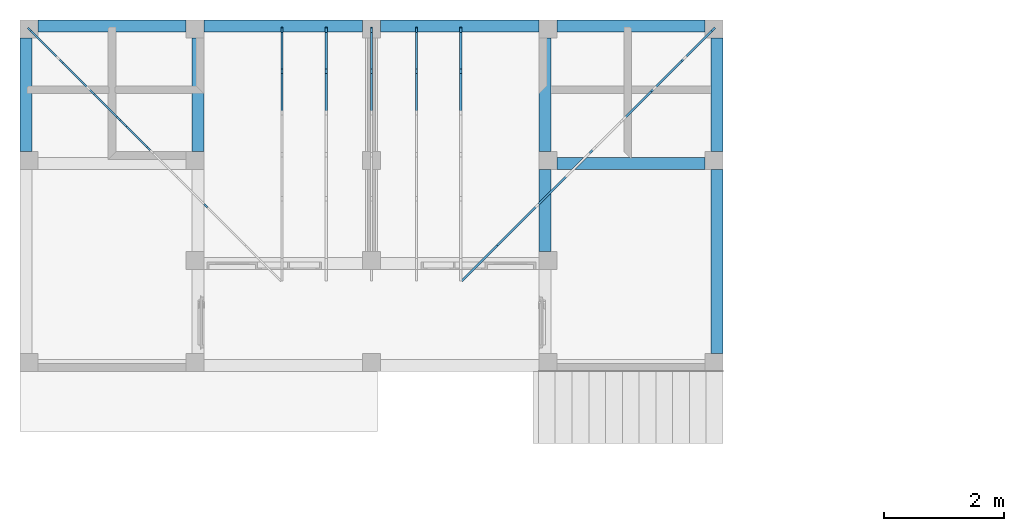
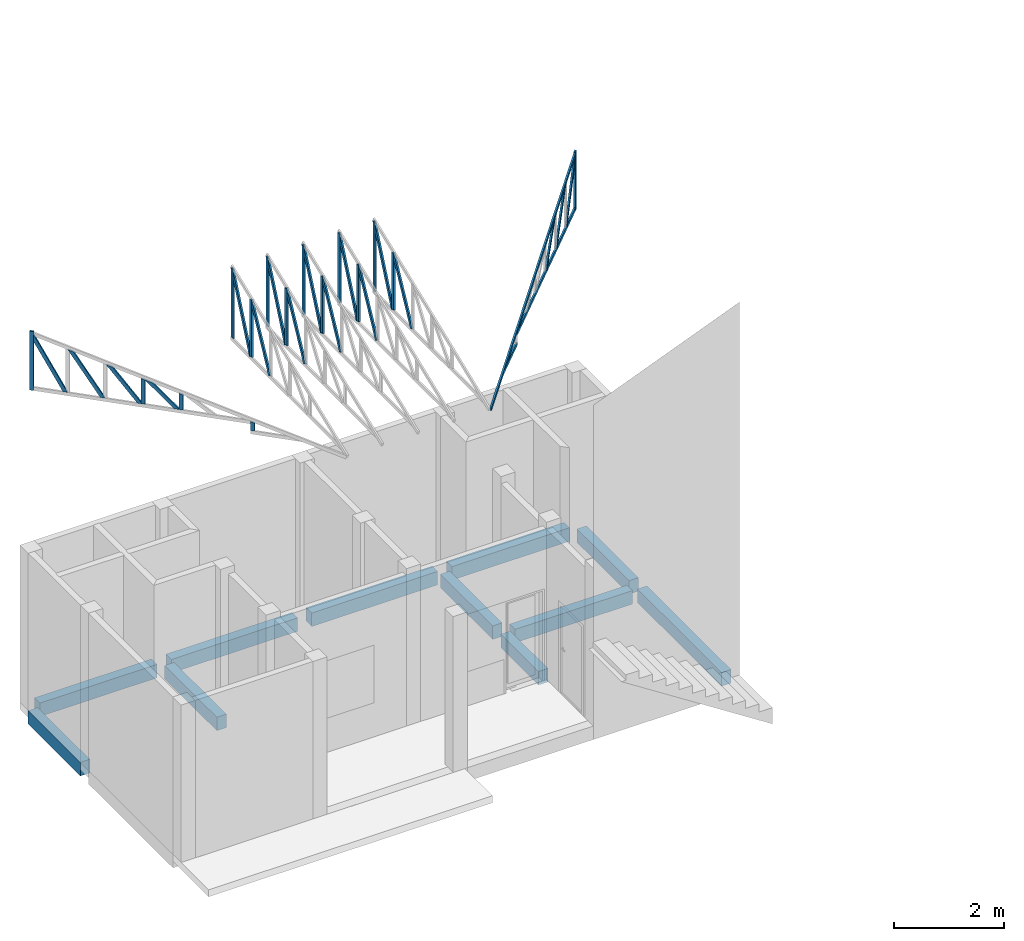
# One storey, part 2 of 10: 35 members, 11 beams, 7 elements without a shape of their own.
"""IFC4X3_ADD2 building model written with IfcOpenShell, lengths in millimetres."""

from ifc_helpers import new_model, entity, si_unit, converted_unit, frame, origin_with_axes, origin_2d_with_axis, place, context, subcontext, project, spatial, rectangle, extrude, clip, halfspace, material, material_profile, profile_set, profile_usage, type_object, element, aggregate, save


model = new_model("IFC4X3_ADD2")

# Units and contexts
model_context = context("Model", 3, precision=1e-05, world=origin_with_axes())
plan_context = context("Plan", 2, precision=1e-05, world=origin_2d_with_axis())
body_context = subcontext(model_context, "Body", "Model", "MODEL_VIEW")
ifc_project = project(units=[si_unit("VOLUMEUNIT", "CUBIC_METRE"), si_unit("LENGTHUNIT", "METRE", prefix="MILLI"), converted_unit("PLANEANGLEUNIT", "degree", entity("IfcReal", 0.0174532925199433), si_unit("PLANEANGLEUNIT", "RADIAN"), dimensions=[0, 0, 0, 0, 0, 0, 0]), si_unit("AREAUNIT", "SQUARE_METRE")], contexts=[model_context, plan_context])

# Site, building, storey
site_placement = place(None, origin_with_axes())
site = spatial("IfcSite", under=ifc_project, at=site_placement, Name="My Site")
building_placement = place(site_placement, origin_with_axes())
building = spatial("IfcBuilding", under=site, at=building_placement, Name="My Building")
storey_placement = place(building_placement, origin_with_axes())
storey = spatial("IfcBuildingStorey", under=building, at=storey_placement, Name="Lantai 1")

# Beams
ifc_material_1 = material(Name="plester")
ifc_material_profile_1 = material_profile(ifc_material_1, rectangle(XDim=200.0, YDim=300.0))
ifc_profile_set_1 = profile_set([ifc_material_profile_1])
ifc_profile_usage_1 = profile_usage(ifc_profile_set_1, cardinal=9)
beam_type = type_object("IfcBeamType", Name="TB1", PredefinedType="BEAM", material=ifc_profile_set_1)
beam_1_placement = place(storey_placement, frame((11590.0001525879, 150.000005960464, 0.0), z_axis=(-8.74227742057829e-08, 0.999999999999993, 7.5497902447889e-08), x_axis=(-0.999999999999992, -8.74227789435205e-08, 8.74228073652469e-08)))
element("IfcBeam", 1, at=beam_1_placement, inside=storey, type_object=beam_type, material=ifc_profile_usage_1, Name="Beam", context=body_context, shape_type="SweptSolid", body=[
    extrude(rectangle(XDim=200.0, YDim=300.0), frame((100.0, -150.0, 0.0), z_axis=(0.0, 0.0, 1.0), x_axis=(1.0, 0.0, 0.0)), (0.0, 0.0, 1.0), 3069.99969830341),
])
ifc_profile_usage_2 = profile_usage(ifc_profile_set_1, cardinal=9)
beam_2_placement = place(storey_placement, frame((11590.0001525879, 3519.99998092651, 0.0), z_axis=(-8.74227742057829e-08, 0.999999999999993, 7.5497902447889e-08), x_axis=(-0.999999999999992, -8.74227789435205e-08, 8.74228073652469e-08)))
element("IfcBeam", 2, at=beam_2_placement, inside=storey, type_object=beam_type, material=ifc_profile_usage_2, Name="Beam", context=body_context, shape_type="SweptSolid", body=[
    extrude(rectangle(XDim=200.0, YDim=300.0), frame((100.0, -150.0, 0.0), z_axis=(0.0, 0.0, 1.0), x_axis=(1.0, 0.0, 0.0)), (0.0, 0.0, 1.0), 1899.99959594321),
])
ifc_profile_usage_3 = profile_usage(ifc_profile_set_1, cardinal=9)
beam_3_placement = place(storey_placement, frame((5570.00017166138, 5719.99979019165, 0.0), z_axis=(-0.999999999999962, -1.94707164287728e-07, 1.94707178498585e-07), x_axis=(1.94707178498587e-07, -0.999999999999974, 1.19209289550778e-07)))
element("IfcBeam", 3, at=beam_3_placement, inside=storey, type_object=beam_type, material=ifc_profile_usage_3, Name="Beam", context=body_context, shape_type="SweptSolid", body=[
    extrude(rectangle(XDim=200.0, YDim=300.0), frame((100.0, -150.0, 0.0), z_axis=(0.0, 0.0, 1.0), x_axis=(1.0, 0.0, 0.0)), (0.0, 0.0, 1.0), 2650.00009716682),
])
ifc_profile_usage_4 = profile_usage(ifc_profile_set_1, cardinal=9)
beam_4_placement = place(storey_placement, frame((2619.99988555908, 5719.99979019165, 0.0), z_axis=(-0.999999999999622, -6.71544177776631e-07, 5.52335037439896e-07), x_axis=(6.7154434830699e-07, -0.99999999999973, 2.98023191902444e-07)))
element("IfcBeam", 4, at=beam_4_placement, inside=storey, type_object=beam_type, material=ifc_profile_usage_4, Name="Beam", context=body_context, shape_type="SweptSolid", body=[
    extrude(rectangle(XDim=200.0, YDim=300.0), frame((100.0, -150.0, 0.0), z_axis=(0.0, 0.0, 1.0), x_axis=(1.0, 0.0, 0.0)), (0.0, 0.0, 1.0), 2469.99974548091),
])
ifc_profile_usage_5 = profile_usage(ifc_profile_set_1, cardinal=9)
beam_5_placement = place(storey_placement, frame((-150.000005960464, 5419.99959945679, 0.0), z_axis=(0.0, -0.999999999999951, 3.13916482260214e-07), x_axis=(1.0, 0.0, 0.0)))
element("IfcBeam", 5, at=beam_5_placement, inside=storey, type_object=beam_type, material=ifc_profile_usage_5, Name="Beam", context=body_context, shape_type="SweptSolid", body=[
    extrude(rectangle(XDim=200.0, YDim=300.0), frame((100.0, -150.0, 0.0), z_axis=(0.0, 0.0, 1.0), x_axis=(1.0, 0.0, 0.0)), (0.0, 0.0, 1.0), 1899.99959594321),
])
ifc_profile_usage_6 = profile_usage(ifc_profile_set_1, cardinal=9)
beam_6_placement = place(storey_placement, frame((8520.00045776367, 3219.99979019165, 0.0), z_axis=(0.0, -0.999999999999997, 7.54978986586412e-08), x_axis=(1.0, 0.0, 0.0)))
element("IfcBeam", 6, at=beam_6_placement, inside=storey, type_object=beam_type, material=ifc_profile_usage_6, Name="Beam", context=body_context, shape_type="SweptSolid", body=[
    extrude(rectangle(XDim=200.0, YDim=300.0), frame((100.0, -150.0, 0.0), z_axis=(0.0, 0.0, 1.0), x_axis=(1.0, 0.0, 0.0)), (0.0, 0.0, 1.0), 1369.9999845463),
])
ifc_profile_usage_7 = profile_usage(ifc_profile_set_1, cardinal=9)
beam_7_placement = place(storey_placement, frame((2920.00007629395, 3519.99998092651, 0.0), z_axis=(-8.74227742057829e-08, 0.999999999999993, 7.5497902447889e-08), x_axis=(-0.999999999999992, -8.74227789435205e-08, 8.74228073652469e-08)))
element("IfcBeam", 7, at=beam_7_placement, inside=storey, type_object=beam_type, material=ifc_profile_usage_7, Name="Beam", context=body_context, shape_type="SweptSolid", body=[
    extrude(rectangle(XDim=200.0, YDim=300.0), frame((100.0, -150.0, 0.0), z_axis=(0.0, 0.0, 1.0), x_axis=(1.0, 0.0, 0.0)), (0.0, 0.0, 1.0), 1899.99959594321),
])
ifc_profile_usage_8 = profile_usage(ifc_profile_set_1, cardinal=9)
beam_8_placement = place(storey_placement, frame((8819.99969482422, 3219.99979019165, 0.0), z_axis=(0.999999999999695, -5.5233481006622e-07, 5.52335037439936e-07), x_axis=(5.52335037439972e-07, 0.99999999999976, -4.17232502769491e-07)))
element("IfcBeam", 8, at=beam_8_placement, inside=storey, type_object=beam_type, material=ifc_profile_usage_8, Name="Beam", context=body_context, shape_type="SweptSolid", body=[
    extrude(rectangle(XDim=200.0, YDim=300.0), frame((100.0, -150.0, 0.0), z_axis=(0.0, 0.0, 1.0), x_axis=(1.0, 0.0, 0.0)), (0.0, 0.0, 1.0), 2470.00119336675),
])
ifc_profile_usage_9 = profile_usage(ifc_profile_set_1, cardinal=9)
beam_9_placement = place(storey_placement, frame((8520.00045776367, 5419.99959945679, 0.0), z_axis=(0.0, -0.999999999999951, 3.13916482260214e-07), x_axis=(1.0, 0.0, 0.0)))
element("IfcBeam", 9, at=beam_9_placement, inside=storey, type_object=beam_type, material=ifc_profile_usage_9, Name="Beam", context=body_context, shape_type="SweptSolid", body=[
    extrude(rectangle(XDim=200.0, YDim=300.0), frame((100.0, -150.0, 0.0), z_axis=(0.0, 0.0, 1.0), x_axis=(1.0, 0.0, 0.0)), (0.0, 0.0, 1.0), 1899.99959594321),
])
ifc_profile_usage_10 = profile_usage(ifc_profile_set_1, cardinal=9)
beam_10_placement = place(storey_placement, frame((11290.0009155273, 5719.99979019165, 0.0), z_axis=(-0.999999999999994, -7.54978941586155e-08, 7.54979012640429e-08), x_axis=(7.5497901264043e-08, -0.999999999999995, 5.96046234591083e-08)))
element("IfcBeam", 10, at=beam_10_placement, inside=storey, type_object=beam_type, material=ifc_profile_usage_10, Name="Beam", context=body_context, shape_type="SweptSolid", body=[
    extrude(rectangle(XDim=200.0, YDim=300.0), frame((100.0, -150.0, 0.0), z_axis=(0.0, 0.0, 1.0), x_axis=(1.0, 0.0, 0.0)), (0.0, 0.0, 1.0), 2470.00119336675),
])
ifc_profile_usage_11 = profile_usage(ifc_profile_set_1, cardinal=9)
beam_11_placement = place(storey_placement, frame((8520.00045776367, 5719.99979019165, 0.0), z_axis=(-0.999999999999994, -7.54978941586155e-08, 7.54979012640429e-08), x_axis=(7.5497901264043e-08, -0.999999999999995, 5.96046234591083e-08)))
element("IfcBeam", 11, at=beam_11_placement, inside=storey, type_object=beam_type, material=ifc_profile_usage_11, Name="Beam", context=body_context, shape_type="SweptSolid", body=[
    extrude(rectangle(XDim=200.0, YDim=300.0), frame((100.0, -150.0, 0.0), z_axis=(0.0, 0.0, 1.0), x_axis=(1.0, 0.0, 0.0)), (0.0, 0.0, 1.0), 2649.99964732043),
])

# Assembly, members
assembly_1_placement = place(storey_placement, frame((-23.0636596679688, 5586.93552017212, 3885.87069511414), z_axis=(0.0, 0.0, 1.0), x_axis=(0.707106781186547, 0.707106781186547, 0.0)))
assembly_1 = element("IfcElementAssembly", 12, at=assembly_1_placement, inside=storey, Name="KK2_0")
ifc_material_2 = material(Name="Galvanis")
ifc_material_profile_2 = material_profile(ifc_material_2, rectangle(XDim=35.0, YDim=75.0))
ifc_profile_set_2 = profile_set([ifc_material_profile_2])
ifc_profile_usage_12 = profile_usage(ifc_profile_set_2, cardinal=2)
member_type = type_object("IfcMemberType", Name="C75", PredefinedType="MEMBER", material=ifc_profile_set_2)
member_1_placement = place(assembly_1_placement, frame((4.33337037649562, 0.0, 3108.0539226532), z_axis=(0.0, 0.0, 1.0), x_axis=(-0.999999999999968, -2.52881095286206e-07, 0.0)))
member_1 = element("IfcMember", 13, at=member_1_placement, type_object=member_type, material=ifc_profile_usage_12, Name="Member", context=body_context, shape_type="SweptSolid", body=[
    extrude(rectangle(XDim=35.0, YDim=75.0), frame((0.0, 37.5, 0.0), z_axis=(0.0, 0.0, 1.0), x_axis=(1.0, 0.0, 0.0)), (0.0, 0.0, 1.0), 1308.89556592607),
])
ifc_profile_usage_13 = profile_usage(ifc_profile_set_2, cardinal=5)
member_2_placement = place(assembly_1_placement, frame((4.33303320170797, -708.768715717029, 3117.20824241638), z_axis=(-4.21468479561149e-08, 0.478758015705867, 0.877946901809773), x_axis=(-0.999999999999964, -2.52881095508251e-07, 8.53385075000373e-08)))
member_2 = element("IfcMember", 14, at=member_2_placement, type_object=member_type, material=ifc_profile_usage_13, Name="Member", context=body_context, shape_type="Clipping", body=[
    clip(clip(extrude(rectangle(XDim=35.0, YDim=75.0), origin_with_axes(), (0.0, 0.0, 1.0), 1398.77777648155), halfspace(frame((0.000169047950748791, 3067.01445579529, -1597.49269485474), z_axis=(-1.37726146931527e-07, -0.47875839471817, -0.877946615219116), x_axis=(-0.999999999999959, 2.87673591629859e-07, 0.0)), False)), halfspace(frame((-0.000786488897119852, -560.798108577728, 295.384377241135), z_axis=(-8.94069671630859e-08, -0.877946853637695, 0.478758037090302), x_axis=(-0.999999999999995, 1.01836423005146e-07, 0.0)), False)),
])
ifc_profile_usage_14 = profile_usage(ifc_profile_set_2, cardinal=5)
member_3_placement = place(assembly_1_placement, frame((4.33370755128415, -1419.8089779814, 3120.01776695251), z_axis=(-8.42936954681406e-08, 0.541839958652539, 0.840481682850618), x_axis=(-0.999999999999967, -2.52881095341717e-07, 3.79913280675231e-08)))
member_3 = element("IfcMember", 15, at=member_3_placement, type_object=member_type, material=ifc_profile_usage_14, Name="Member", context=body_context, shape_type="Clipping", body=[
    clip(clip(extrude(rectangle(XDim=35.0, YDim=75.0), origin_with_axes(), (0.0, 0.0, 1.0), 1264.66226459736), halfspace(frame((0.00130563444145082, 3564.84651565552, -2852.63228416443), z_axis=(5.79194043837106e-08, 0.750011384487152, 0.661425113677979), x_axis=(0.999999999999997, -7.72247002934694e-08, 0.0)), False)), halfspace(frame((0.000912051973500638, 2342.49377250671, -1435.1555109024), z_axis=(-1.07923838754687e-07, -0.541840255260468, -0.840481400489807), x_axis=(-0.99999999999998, 1.99180178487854e-07, 0.0)), False)),
])
ifc_profile_usage_15 = profile_usage(ifc_profile_set_2, cardinal=5)
member_4_placement = place(assembly_1_placement, frame((4.33337037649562, -2128.59050634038, 3124.15480613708), z_axis=(-1.05367119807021e-07, 0.619085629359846, 0.785323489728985), x_axis=(-0.999999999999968, -2.52881095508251e-07, 3.14548072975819e-08)))
member_4 = element("IfcMember", 16, at=member_4_placement, type_object=member_type, material=ifc_profile_usage_15, Name="Member", context=body_context, shape_type="Clipping", body=[
    clip(clip(extrude(rectangle(XDim=35.0, YDim=75.0), origin_with_axes(), (0.0, 0.0, 1.0), 1079.73033831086), halfspace(frame((0.00106721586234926, 2719.14505958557, -2742.21801757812), z_axis=(5.79194114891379e-08, 0.809342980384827, 0.587336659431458), x_axis=(0.999999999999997, -7.15634939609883e-08, 0.0)), False)), halfspace(frame((0.000673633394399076, 1636.69037818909, -1215.23499488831), z_axis=(-1.07923838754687e-07, -0.619086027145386, -0.785323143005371), x_axis=(-0.999999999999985, 1.74327692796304e-07, 0.0)), False)),
])
ifc_profile_usage_16 = profile_usage(ifc_profile_set_2, cardinal=5)
member_5_placement = place(assembly_1_placement, frame((4.33370755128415, -2141.28345123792, 3183.05373191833), z_axis=(-3.21554935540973e-13, 1.59049753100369e-06, 0.999999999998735), x_axis=(-0.999999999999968, -2.52881095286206e-07, 2.45492785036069e-14)))
member_5 = element("IfcMember", 17, at=member_5_placement, type_object=member_type, material=ifc_profile_usage_16, Name="Member", context=body_context, shape_type="Clipping", body=[
    clip(extrude(rectangle(XDim=35.0, YDim=75.0), origin_with_axes(), (0.0, 0.0, 1.0), 625.745781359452), halfspace(frame((0.00125169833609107, 3820.38331031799, -529.050648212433), z_axis=(2.98024325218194e-08, 0.271985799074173, 0.96230137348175), x_axis=(0.999999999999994, -1.0957348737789e-07, 0.0)), False)),
])
ifc_profile_usage_17 = profile_usage(ifc_profile_set_2, cardinal=5)
member_6_placement = place(assembly_1_placement, frame((4.33337037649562, -2832.37881326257, 3130.3985118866), z_axis=(-1.26440543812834e-07, 0.712115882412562, 0.702061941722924), x_axis=(-0.999999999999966, -2.52881095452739e-07, 6.84072259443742e-08)))
member_6 = element("IfcMember", 18, at=member_6_placement, type_object=member_type, material=ifc_profile_usage_17, Name="Member", context=body_context, shape_type="Clipping", body=[
    clip(clip(extrude(rectangle(XDim=35.0, YDim=75.0), origin_with_axes(), (0.0, 0.0, 1.0), 889.853461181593), halfspace(frame((0.000926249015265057, 1857.71059989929, -2562.87097930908), z_axis=(8.71599752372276e-08, 0.876220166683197, 0.481911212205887), x_axis=(0.999999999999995, -9.94726879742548e-08, 0.0)), False)), halfspace(frame((0.000540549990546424, 973.961710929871, -912.909269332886), z_axis=(-1.22825014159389e-07, -0.712116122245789, -0.702061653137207), x_axis=(-0.999999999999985, 1.72478912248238e-07, 0.0)), False)),
])
ifc_profile_usage_18 = profile_usage(ifc_profile_set_2, cardinal=5)
member_7_placement = place(assembly_1_placement, frame((4.33337037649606, -2855.04370251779, 3183.05373191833), z_axis=(0.0, 0.0, 1.0), x_axis=(-0.999999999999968, -2.52881095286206e-07, 0.0)))
member_7 = element("IfcMember", 19, at=member_7_placement, type_object=member_type, material=ifc_profile_usage_18, Name="Member", context=body_context, shape_type="Clipping", body=[
    clip(extrude(rectangle(XDim=35.0, YDim=75.0), origin_with_axes(), (0.0, 0.0, 1.0), 424.009802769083), halfspace(frame((0.000774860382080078, 3106.62412643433, -529.044151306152), z_axis=(2.98023223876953e-08, 0.271984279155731, 0.962301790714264), x_axis=(0.999999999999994, -1.09573694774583e-07, 0.0)), False)),
])
ifc_profile_usage_19 = profile_usage(ifc_profile_set_2, cardinal=5)
member_8_placement = place(assembly_1_placement, frame((4.33320178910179, -4203.75718479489, 2960.51669120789), z_axis=(0.0, 0.0, 1.0), x_axis=(-0.999999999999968, -2.52881095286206e-07, 0.0)))
member_8 = element("IfcMember", 20, at=member_8_placement, type_object=member_type, material=ifc_profile_usage_19, Name="Member", context=body_context, shape_type="Clipping", body=[
    clip(extrude(rectangle(XDim=35.0, YDim=75.0), origin_with_axes(), (0.0, 0.0, 1.0), 265.347953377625), halfspace(frame((0.000298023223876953, 1757.91037082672, -306.506156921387), z_axis=(2.98023223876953e-08, 0.271984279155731, 0.962301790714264), x_axis=(0.999999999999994, -1.09573694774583e-07, 0.0)), False)),
])
aggregate(assembly_1, [member_1, member_2, member_3, member_4, member_5, member_6, member_7, member_8])

assembly_2_placement = place(storey_placement, frame((11456.9368362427, 5593.06478500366, 3886.06977462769), z_axis=(0.0, 0.0, 1.0), x_axis=(0.707106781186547, -0.707106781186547, 0.0)))
assembly_2 = element("IfcElementAssembly", 21, at=assembly_2_placement, inside=storey, Name="KK2_1")
ifc_profile_usage_20 = profile_usage(ifc_profile_set_2, cardinal=2)
member_9_placement = place(assembly_2_placement, frame((4.33337037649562, 0.0, 3108.05416107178), z_axis=(0.0, 0.0, 1.0), x_axis=(-0.999999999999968, -2.52881095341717e-07, 0.0)))
member_9 = element("IfcMember", 22, at=member_9_placement, type_object=member_type, material=ifc_profile_usage_20, Name="Member.030", context=body_context, shape_type="SweptSolid", body=[
    extrude(rectangle(XDim=35.0, YDim=75.0), frame((0.0, 37.5, 0.0), z_axis=(0.0, 0.0, 1.0), x_axis=(1.0, 0.0, 0.0)), (0.0, 0.0, 1.0), 1308.89465516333),
])
ifc_profile_usage_21 = profile_usage(ifc_profile_set_2, cardinal=2)
member_10_placement = place(assembly_2_placement, frame((4.33353896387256, -5142.57857254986, 2885.51616668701), z_axis=(2.52881095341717e-07, 0.999999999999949, 1.94707187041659e-07), x_axis=(-0.999999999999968, 2.52881095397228e-07, 2.55770200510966e-08)))
member_10 = element("IfcMember", 23, at=member_10_placement, type_object=member_type, material=ifc_profile_usage_21, Name="Member.041", context=body_context, shape_type="SweptSolid", body=[
    extrude(rectangle(XDim=35.0, YDim=75.0), frame((0.0, 37.5, 0.0), z_axis=(0.0, 0.0, 1.0), x_axis=(1.0, 0.0, 0.0)), (0.0, 0.0, 1.0), 976.321121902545),
])
ifc_profile_usage_22 = profile_usage(ifc_profile_set_2, cardinal=5)
member_11_placement = place(assembly_2_placement, frame((4.33370755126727, -2100.46035094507, 3159.83819961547), z_axis=(-1.26440544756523e-07, 0.619085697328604, 0.785323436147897), x_axis=(-0.999999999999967, -2.52881095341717e-07, 3.62027747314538e-08)))
member_11 = element("IfcMember", 24, at=member_11_placement, type_object=member_type, material=ifc_profile_usage_22, Name="Member.043", context=body_context, shape_type="SweptSolid", body=[
    extrude(rectangle(XDim=35.0, YDim=75.0), origin_with_axes(), (0.0, 0.0, 1.0), 1010.96661421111),
])
ifc_profile_usage_23 = profile_usage(ifc_profile_set_2, cardinal=5)
member_12_placement = place(assembly_2_placement, frame((4.33303320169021, -682.65183098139, 3165.10105133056), z_axis=(-4.21468479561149e-08, 0.478758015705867, 0.877946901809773), x_axis=(-0.999999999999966, -2.52881095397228e-07, 7.01579037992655e-08)))
member_12 = element("IfcMember", 25, at=member_12_placement, type_object=member_type, material=ifc_profile_usage_23, Name="Member.045", context=body_context, shape_type="SweptSolid", body=[
    extrude(rectangle(XDim=35.0, YDim=75.0), origin_with_axes(), (0.0, 0.0, 1.0), 1337.99518817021),
])
ifc_profile_usage_24 = profile_usage(ifc_profile_set_2, cardinal=5)
member_13_placement = place(assembly_2_placement, frame((4.33404472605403, -1392.26955281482, 3162.73546218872), z_axis=(-1.05367120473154e-07, 0.541839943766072, 0.840481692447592), x_axis=(-0.999999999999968, -2.52881095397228e-07, 2.59165831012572e-08)))
member_13 = element("IfcMember", 26, at=member_13_placement, type_object=member_type, material=ifc_profile_usage_24, Name="Member.046", context=body_context, shape_type="SweptSolid", body=[
    extrude(rectangle(XDim=35.0, YDim=75.0), origin_with_axes(), (0.0, 0.0, 1.0), 1181.36211927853),
])
ifc_profile_usage_25 = profile_usage(ifc_profile_set_2, cardinal=2)
member_14_placement = place(assembly_2_placement, frame((4.33353896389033, -4166.25727921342, 3108.05320739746), z_axis=(0.0, 0.999999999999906, 4.33125778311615e-07), x_axis=(-0.999999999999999, 0.0, 4.44731692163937e-08)))
member_14 = element("IfcMember", 27, at=member_14_placement, type_object=member_type, material=ifc_profile_usage_25, Name="Member.047", context=body_context, shape_type="SweptSolid", body=[
    extrude(rectangle(XDim=35.0, YDim=75.0), frame((0.0, 37.5, 0.0), z_axis=(0.0, 0.0, 1.0), x_axis=(1.0, 0.0, 0.0)), (0.0, 0.0, 1.0), 4091.25646696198),
])
ifc_profile_usage_26 = profile_usage(ifc_profile_set_2, cardinal=8)
member_15_placement = place(assembly_2_placement, frame((4.33353896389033, -5982.06691903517, 2726.18198394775), z_axis=(4.21468495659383e-08, 0.962301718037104, 0.27198419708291), x_axis=(-0.999999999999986, 0.0, 1.63422728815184e-07)))
member_15 = element("IfcMember", 28, at=member_15_placement, type_object=member_type, material=ifc_profile_usage_26, Name="Member.051", context=body_context, shape_type="Clipping", body=[
    clip(extrude(rectangle(XDim=35.0, YDim=75.0), frame((0.0, -37.5, 0.0), z_axis=(0.0, 0.0, 1.0), x_axis=(1.0, 0.0, 0.0)), (0.0, 0.0, 1.0), 6213.4777704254), halfspace(frame((0.000431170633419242, -1239.15243148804, 5788.24615478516), z_axis=(2.38418579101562e-07, -0.271984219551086, 0.962301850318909), x_axis=(-0.999999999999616, -8.7658975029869e-07, 0.0)), False)),
])
aggregate(assembly_2, [member_9, member_10, member_11, member_12, member_13, member_14, member_15])

assembly_3_placement = place(storey_placement, frame((4964.99967575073, 5604.99954223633, 6607.21015930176), z_axis=(0.0, 0.0, 1.0), x_axis=(1.0, 0.0, 0.0)))
assembly_3 = element("IfcElementAssembly", 29, at=assembly_3_placement, inside=storey, Name="KK1_1")
ifc_profile_usage_27 = profile_usage(ifc_profile_set_2, cardinal=2)
member_16_placement = place(assembly_3_placement, frame((0.0, -14.9998664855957, 74.9998092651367), z_axis=(0.0, 0.0, 1.0), x_axis=(-0.999999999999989, -1.50995802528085e-07, 0.0)))
member_16 = element("IfcMember", 30, at=member_16_placement, type_object=member_type, material=ifc_profile_usage_27, Name="Member.059", context=body_context, shape_type="SweptSolid", body=[
    extrude(rectangle(XDim=35.0, YDim=75.0), frame((0.0, 37.5, 0.0), z_axis=(0.0, 0.0, 1.0), x_axis=(1.0, 0.0, 0.0)), (0.0, 0.0, 1.0), 1534.38760476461),
])
ifc_profile_usage_28 = profile_usage(ifc_profile_set_2, cardinal=2)
member_17_placement = place(assembly_3_placement, frame((0.0, -700.000762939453, 74.9998092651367), z_axis=(-4.35708814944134e-13, 4.06124991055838e-06, 0.999999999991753), x_axis=(-0.999999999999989, -1.50995802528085e-07, 1.77522872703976e-13)))
member_17 = element("IfcMember", 31, at=member_17_placement, type_object=member_type, material=ifc_profile_usage_28, Name="Member.067", context=body_context, shape_type="SweptSolid", body=[
    extrude(rectangle(XDim=35.0, YDim=75.0), frame((0.0, 37.5, 0.0), z_axis=(0.0, 0.0, 1.0), x_axis=(1.0, 0.0, 0.0)), (0.0, 0.0, 1.0), 1255.1569895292),
])
ifc_profile_usage_29 = profile_usage(ifc_profile_set_2, cardinal=2)
member_18_placement = place(assembly_3_placement, frame((2.66453525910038e-12, -680.415630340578, 45.1564788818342), z_axis=(-2.81693918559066e-08, 0.397916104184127, 0.917421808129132), x_axis=(-0.999999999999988, -1.50995802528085e-07, 3.47869111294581e-08)))
member_18 = element("IfcMember", 32, at=member_18_placement, type_object=member_type, material=ifc_profile_usage_29, Name="Member.072", context=body_context, shape_type="SweptSolid", body=[
    extrude(rectangle(XDim=35.0, YDim=75.0), frame((0.0, 37.5, 0.0), z_axis=(0.0, 0.0, 1.0), x_axis=(1.0, 0.0, 0.0)), (0.0, 0.0, 1.0), 1704.00113135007),
])
ifc_profile_usage_30 = profile_usage(ifc_profile_set_2, cardinal=2)
member_19_placement = place(assembly_3_placement, frame((2.66453525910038e-12, -1378.93533706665, 40.1639938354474), z_axis=(-3.41735315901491e-08, 0.464471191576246, 0.885588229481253), x_axis=(-0.999999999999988, -1.50995802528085e-07, 4.06053999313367e-08)))
member_19 = element("IfcMember", 33, at=member_19_placement, type_object=member_type, material=ifc_profile_usage_30, Name="Member.074", context=body_context, shape_type="SweptSolid", body=[
    extrude(rectangle(XDim=35.0, YDim=75.0), frame((0.0, 37.5, 0.0), z_axis=(0.0, 0.0, 1.0), x_axis=(1.0, 0.0, 0.0)), (0.0, 0.0, 1.0), 1455.30195114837),
])
aggregate(assembly_3, [member_16, member_17, member_18, member_19])

assembly_4_placement = place(storey_placement, frame((7212.50009536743, 5604.99954223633, 6607.21015930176), z_axis=(0.0, 0.0, 1.0), x_axis=(1.0, 0.0, 0.0)))
assembly_4 = element("IfcElementAssembly", 34, at=assembly_4_placement, inside=storey, Name="KK1_4")
ifc_profile_usage_31 = profile_usage(ifc_profile_set_2, cardinal=2)
member_20_placement = place(assembly_4_placement, frame((0.0, -14.9998664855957, 74.9998092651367), z_axis=(0.0, 0.0, 1.0), x_axis=(-0.999999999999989, -1.50995802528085e-07, 0.0)))
member_20 = element("IfcMember", 35, at=member_20_placement, type_object=member_type, material=ifc_profile_usage_31, Name="Member.069", context=body_context, shape_type="SweptSolid", body=[
    extrude(rectangle(XDim=35.0, YDim=75.0), frame((0.0, 37.5, 0.0), z_axis=(0.0, 0.0, 1.0), x_axis=(1.0, 0.0, 0.0)), (0.0, 0.0, 1.0), 1534.38760476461),
])
ifc_profile_usage_32 = profile_usage(ifc_profile_set_2, cardinal=2)
member_21_placement = place(assembly_4_placement, frame((0.0, -1378.93533706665, 40.1639938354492), z_axis=(-3.41735280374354e-08, 0.464471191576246, 0.885588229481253), x_axis=(-0.999999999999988, -1.50995802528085e-07, 4.0605407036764e-08)))
member_21 = element("IfcMember", 36, at=member_21_placement, type_object=member_type, material=ifc_profile_usage_32, Name="Member.073", context=body_context, shape_type="SweptSolid", body=[
    extrude(rectangle(XDim=35.0, YDim=75.0), frame((0.0, 37.5, 0.0), z_axis=(0.0, 0.0, 1.0), x_axis=(1.0, 0.0, 0.0)), (0.0, 0.0, 1.0), 1455.30195114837),
])
ifc_profile_usage_33 = profile_usage(ifc_profile_set_2, cardinal=2)
member_22_placement = place(assembly_4_placement, frame((0.0, -680.415630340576, 45.1564788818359), z_axis=(-2.81693936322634e-08, 0.397916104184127, 0.917421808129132), x_axis=(-0.999999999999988, -1.50995802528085e-07, 3.47869075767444e-08)))
member_22 = element("IfcMember", 37, at=member_22_placement, type_object=member_type, material=ifc_profile_usage_33, Name="Member.076", context=body_context, shape_type="SweptSolid", body=[
    extrude(rectangle(XDim=35.0, YDim=75.0), frame((0.0, 37.5, 0.0), z_axis=(0.0, 0.0, 1.0), x_axis=(1.0, 0.0, 0.0)), (0.0, 0.0, 1.0), 1704.00113135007),
])
ifc_profile_usage_34 = profile_usage(ifc_profile_set_2, cardinal=2)
member_23_placement = place(assembly_4_placement, frame((0.0, -700.000762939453, 74.9998092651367), z_axis=(-4.35708814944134e-13, 4.06124991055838e-06, 0.999999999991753), x_axis=(-0.999999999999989, -1.50995802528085e-07, 1.77522872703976e-13)))
member_23 = element("IfcMember", 38, at=member_23_placement, type_object=member_type, material=ifc_profile_usage_34, Name="Member.083", context=body_context, shape_type="SweptSolid", body=[
    extrude(rectangle(XDim=35.0, YDim=75.0), frame((0.0, 37.5, 0.0), z_axis=(0.0, 0.0, 1.0), x_axis=(1.0, 0.0, 0.0)), (0.0, 0.0, 1.0), 1255.1569895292),
])
aggregate(assembly_4, [member_20, member_21, member_22, member_23])

assembly_5_placement = place(storey_placement, frame((6474.99990463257, 5604.99954223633, 6607.21063613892), z_axis=(0.0, 0.0, 1.0), x_axis=(1.0, 0.0, 0.0)))
assembly_5 = element("IfcElementAssembly", 39, at=assembly_5_placement, inside=storey, Name="KK1_3")
ifc_profile_usage_35 = profile_usage(ifc_profile_set_2, cardinal=2)
member_24_placement = place(assembly_5_placement, frame((0.0, -14.9998664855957, 74.9998092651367), z_axis=(0.0, 0.0, 1.0), x_axis=(-0.999999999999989, -1.50995802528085e-07, 0.0)))
member_24 = element("IfcMember", 40, at=member_24_placement, type_object=member_type, material=ifc_profile_usage_35, Name="Member.071", context=body_context, shape_type="SweptSolid", body=[
    extrude(rectangle(XDim=35.0, YDim=75.0), frame((0.0, 37.5, 0.0), z_axis=(0.0, 0.0, 1.0), x_axis=(1.0, 0.0, 0.0)), (0.0, 0.0, 1.0), 1534.38760476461),
])
ifc_profile_usage_36 = profile_usage(ifc_profile_set_2, cardinal=2)
member_25_placement = place(assembly_5_placement, frame((0.0, -1378.93533706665, 40.1639938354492), z_axis=(-3.41735280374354e-08, 0.464471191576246, 0.885588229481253), x_axis=(-0.999999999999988, -1.50995802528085e-07, 4.0605407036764e-08)))
member_25 = element("IfcMember", 41, at=member_25_placement, type_object=member_type, material=ifc_profile_usage_36, Name="Member.077", context=body_context, shape_type="SweptSolid", body=[
    extrude(rectangle(XDim=35.0, YDim=75.0), frame((0.0, 37.5, 0.0), z_axis=(0.0, 0.0, 1.0), x_axis=(1.0, 0.0, 0.0)), (0.0, 0.0, 1.0), 1455.30195114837),
])
ifc_profile_usage_37 = profile_usage(ifc_profile_set_2, cardinal=2)
member_26_placement = place(assembly_5_placement, frame((0.0, -680.415630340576, 45.1564788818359), z_axis=(-2.81693936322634e-08, 0.397916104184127, 0.917421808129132), x_axis=(-0.999999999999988, -1.50995802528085e-07, 3.47869075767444e-08)))
member_26 = element("IfcMember", 42, at=member_26_placement, type_object=member_type, material=ifc_profile_usage_37, Name="Member.094", context=body_context, shape_type="SweptSolid", body=[
    extrude(rectangle(XDim=35.0, YDim=75.0), frame((0.0, 37.5, 0.0), z_axis=(0.0, 0.0, 1.0), x_axis=(1.0, 0.0, 0.0)), (0.0, 0.0, 1.0), 1704.00113135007),
])
ifc_profile_usage_38 = profile_usage(ifc_profile_set_2, cardinal=2)
member_27_placement = place(assembly_5_placement, frame((0.0, -700.000762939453, 74.9998092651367), z_axis=(-4.35708814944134e-13, 4.06124991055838e-06, 0.999999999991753), x_axis=(-0.999999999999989, -1.50995802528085e-07, 1.77522872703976e-13)))
member_27 = element("IfcMember", 43, at=member_27_placement, type_object=member_type, material=ifc_profile_usage_38, Name="Member.102", context=body_context, shape_type="SweptSolid", body=[
    extrude(rectangle(XDim=35.0, YDim=75.0), frame((0.0, 37.5, 0.0), z_axis=(0.0, 0.0, 1.0), x_axis=(1.0, 0.0, 0.0)), (0.0, 0.0, 1.0), 1255.1569895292),
])
aggregate(assembly_5, [member_24, member_25, member_26, member_27])

assembly_6_placement = place(storey_placement, frame((4227.49996185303, 5604.99954223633, 6607.21015930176), z_axis=(0.0, 0.0, 1.0), x_axis=(1.0, 0.0, 0.0)))
assembly_6 = element("IfcElementAssembly", 44, at=assembly_6_placement, inside=storey, Name="KK1_2")
ifc_profile_usage_39 = profile_usage(ifc_profile_set_2, cardinal=2)
member_28_placement = place(assembly_6_placement, frame((0.0, -14.9998664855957, 74.9998092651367), z_axis=(0.0, 0.0, 1.0), x_axis=(-0.999999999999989, -1.50995802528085e-07, 0.0)))
member_28 = element("IfcMember", 45, at=member_28_placement, type_object=member_type, material=ifc_profile_usage_39, Name="Member.052", context=body_context, shape_type="SweptSolid", body=[
    extrude(rectangle(XDim=35.0, YDim=75.0), frame((0.0, 37.5, 0.0), z_axis=(0.0, 0.0, 1.0), x_axis=(1.0, 0.0, 0.0)), (0.0, 0.0, 1.0), 1534.38760476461),
])
ifc_profile_usage_40 = profile_usage(ifc_profile_set_2, cardinal=2)
member_29_placement = place(assembly_6_placement, frame((0.0, -1378.93533706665, 40.1639938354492), z_axis=(-3.41735280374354e-08, 0.464471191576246, 0.885588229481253), x_axis=(-0.999999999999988, -1.50995802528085e-07, 4.0605407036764e-08)))
member_29 = element("IfcMember", 46, at=member_29_placement, type_object=member_type, material=ifc_profile_usage_40, Name="Member.054", context=body_context, shape_type="SweptSolid", body=[
    extrude(rectangle(XDim=35.0, YDim=75.0), frame((0.0, 37.5, 0.0), z_axis=(0.0, 0.0, 1.0), x_axis=(1.0, 0.0, 0.0)), (0.0, 0.0, 1.0), 1455.30195114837),
])
ifc_profile_usage_41 = profile_usage(ifc_profile_set_2, cardinal=2)
member_30_placement = place(assembly_6_placement, frame((0.0, -680.415630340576, 45.1564788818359), z_axis=(-2.81693936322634e-08, 0.397916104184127, 0.917421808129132), x_axis=(-0.999999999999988, -1.50995802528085e-07, 3.47869075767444e-08)))
member_30 = element("IfcMember", 47, at=member_30_placement, type_object=member_type, material=ifc_profile_usage_41, Name="Member.057", context=body_context, shape_type="SweptSolid", body=[
    extrude(rectangle(XDim=35.0, YDim=75.0), frame((0.0, 37.5, 0.0), z_axis=(0.0, 0.0, 1.0), x_axis=(1.0, 0.0, 0.0)), (0.0, 0.0, 1.0), 1704.00113135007),
])
ifc_profile_usage_42 = profile_usage(ifc_profile_set_2, cardinal=2)
member_31_placement = place(assembly_6_placement, frame((0.0, -700.000762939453, 74.9998092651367), z_axis=(-4.35708814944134e-13, 4.06124991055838e-06, 0.999999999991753), x_axis=(-0.999999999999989, -1.50995802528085e-07, 1.77522872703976e-13)))
member_31 = element("IfcMember", 48, at=member_31_placement, type_object=member_type, material=ifc_profile_usage_42, Name="Member.064", context=body_context, shape_type="SweptSolid", body=[
    extrude(rectangle(XDim=35.0, YDim=75.0), frame((0.0, 37.5, 0.0), z_axis=(0.0, 0.0, 1.0), x_axis=(1.0, 0.0, 0.0)), (0.0, 0.0, 1.0), 1255.1569895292),
])
aggregate(assembly_6, [member_28, member_29, member_30, member_31])

assembly_7_placement = place(storey_placement, frame((5720.00169754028, 5604.99954223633, 6607.21015930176), z_axis=(0.0, 0.0, 1.0), x_axis=(1.0, 0.0, 0.0)))
assembly_7 = element("IfcElementAssembly", 49, at=assembly_7_placement, inside=storey, Name="KK1_0")
ifc_profile_usage_43 = profile_usage(ifc_profile_set_2, cardinal=2)
member_32_placement = place(assembly_7_placement, frame((0.0, -14.9998664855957, 74.9998092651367), z_axis=(0.0, 0.0, 1.0), x_axis=(-0.999999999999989, -1.50995802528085e-07, 0.0)))
member_32 = element("IfcMember", 50, at=member_32_placement, type_object=member_type, material=ifc_profile_usage_43, Name="Member.008", context=body_context, shape_type="SweptSolid", body=[
    extrude(rectangle(XDim=35.0, YDim=75.0), frame((0.0, 37.5, 0.0), z_axis=(0.0, 0.0, 1.0), x_axis=(1.0, 0.0, 0.0)), (0.0, 0.0, 1.0), 1534.38760476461),
])
ifc_profile_usage_44 = profile_usage(ifc_profile_set_2, cardinal=2)
member_33_placement = place(assembly_7_placement, frame((0.0, -1378.93533706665, 40.1639938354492), z_axis=(-3.41735280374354e-08, 0.464471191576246, 0.885588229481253), x_axis=(-0.999999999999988, -1.50995802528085e-07, 4.0605407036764e-08)))
member_33 = element("IfcMember", 51, at=member_33_placement, type_object=member_type, material=ifc_profile_usage_44, Name="Member.009", context=body_context, shape_type="SweptSolid", body=[
    extrude(rectangle(XDim=35.0, YDim=75.0), frame((0.0, 37.5, 0.0), z_axis=(0.0, 0.0, 1.0), x_axis=(1.0, 0.0, 0.0)), (0.0, 0.0, 1.0), 1455.30195114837),
])
ifc_profile_usage_45 = profile_usage(ifc_profile_set_2, cardinal=2)
member_34_placement = place(assembly_7_placement, frame((0.0, -680.415630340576, 45.1564788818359), z_axis=(-2.81693936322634e-08, 0.397916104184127, 0.917421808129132), x_axis=(-0.999999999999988, -1.50995802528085e-07, 3.47869075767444e-08)))
member_34 = element("IfcMember", 52, at=member_34_placement, type_object=member_type, material=ifc_profile_usage_45, Name="Member.011", context=body_context, shape_type="SweptSolid", body=[
    extrude(rectangle(XDim=35.0, YDim=75.0), frame((0.0, 37.5, 0.0), z_axis=(0.0, 0.0, 1.0), x_axis=(1.0, 0.0, 0.0)), (0.0, 0.0, 1.0), 1704.00113135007),
])
ifc_profile_usage_46 = profile_usage(ifc_profile_set_2, cardinal=2)
member_35_placement = place(assembly_7_placement, frame((0.0, -700.000762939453, 74.9998092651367), z_axis=(-4.35708814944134e-13, 4.06124991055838e-06, 0.999999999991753), x_axis=(-0.999999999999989, -1.50995802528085e-07, 1.77522872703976e-13)))
member_35 = element("IfcMember", 53, at=member_35_placement, type_object=member_type, material=ifc_profile_usage_46, Name="Member.028", context=body_context, shape_type="SweptSolid", body=[
    extrude(rectangle(XDim=35.0, YDim=75.0), frame((0.0, 37.5, 0.0), z_axis=(0.0, 0.0, 1.0), x_axis=(1.0, 0.0, 0.0)), (0.0, 0.0, 1.0), 1255.1569895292),
])
aggregate(assembly_7, [member_32, member_33, member_34, member_35])

save(model, "model.ifc")
